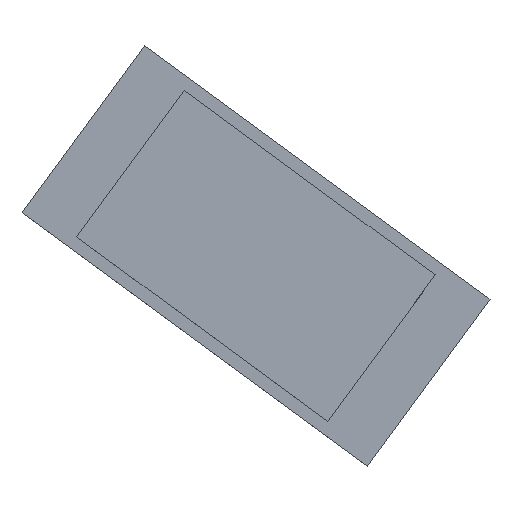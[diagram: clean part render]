
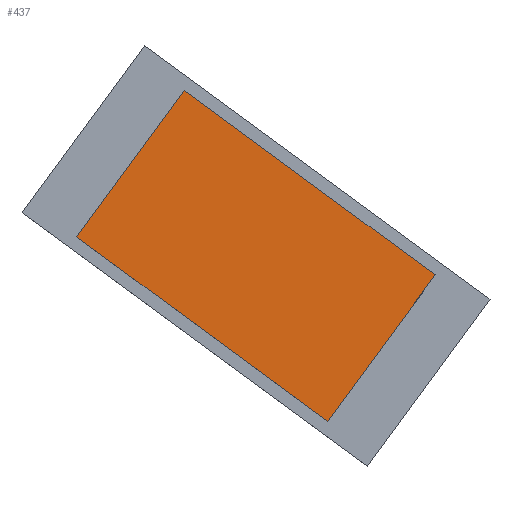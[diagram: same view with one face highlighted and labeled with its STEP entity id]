
A CAD part, top view. The second image highlights one B-rep face of the part: STEP entity #437.
In plain terms, the highlighted planar face has unit normal (0, 0, 1).
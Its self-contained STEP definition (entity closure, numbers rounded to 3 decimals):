
#238 = VERTEX_POINT('',#239);
#239 = CARTESIAN_POINT('',(8.545,9.605,5.1));
#247 = VERTEX_POINT('',#248);
#248 = CARTESIAN_POINT('',(7.716,8.477,5.1));
#254 = EDGE_CURVE('',#247,#238,#255,.T.);
#255 = LINE('',#256,#257);
#256 = CARTESIAN_POINT('',(7.716,8.477,5.1));
#257 = VECTOR('',#258,1.);
#258 = DIRECTION('',(0.592,0.806,0.));
#271 = VERTEX_POINT('',#272);
#272 = CARTESIAN_POINT('',(6.611,11.026,5.1));
#278 = EDGE_CURVE('',#238,#271,#279,.T.);
#279 = LINE('',#280,#281);
#280 = CARTESIAN_POINT('',(8.545,9.605,5.1));
#281 = VECTOR('',#282,1.);
#282 = DIRECTION('',(-0.806,0.592,0.));
#295 = VERTEX_POINT('',#296);
#296 = CARTESIAN_POINT('',(5.782,9.898,5.1));
#302 = EDGE_CURVE('',#295,#271,#303,.T.);
#303 = LINE('',#304,#305);
#304 = CARTESIAN_POINT('',(5.782,9.898,5.1));
#305 = VECTOR('',#306,1.);
#306 = DIRECTION('',(0.592,0.806,0.));
#319 = EDGE_CURVE('',#247,#295,#320,.T.);
#320 = LINE('',#321,#322);
#321 = CARTESIAN_POINT('',(7.716,8.477,5.1));
#322 = VECTOR('',#323,1.);
#323 = DIRECTION('',(-0.806,0.592,0.));
#437 = ADVANCED_FACE('',(#438),#444,.T.);
#438 = FACE_BOUND('',#439,.T.);
#439 = EDGE_LOOP('',(#440,#441,#442,#443));
#440 = ORIENTED_EDGE('',*,*,#319,.F.);
#441 = ORIENTED_EDGE('',*,*,#254,.T.);
#442 = ORIENTED_EDGE('',*,*,#278,.T.);
#443 = ORIENTED_EDGE('',*,*,#302,.F.);
#444 = PLANE('',#445);
#445 = AXIS2_PLACEMENT_3D('',#446,#447,#448);
#446 = CARTESIAN_POINT('',(7.716,8.477,5.1));
#447 = DIRECTION('',(0.,0.,1.));
#448 = DIRECTION('',(0.592,0.806,0.));
